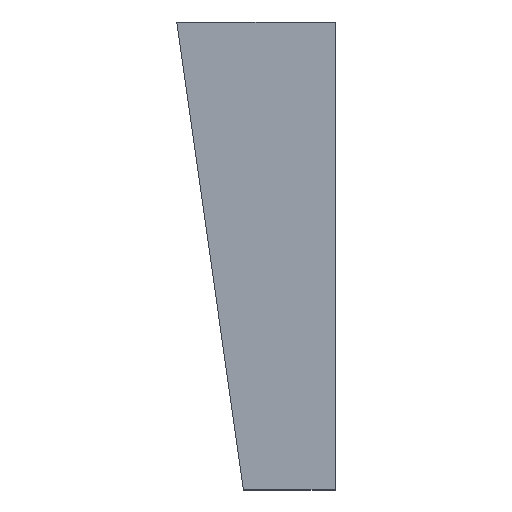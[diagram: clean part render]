
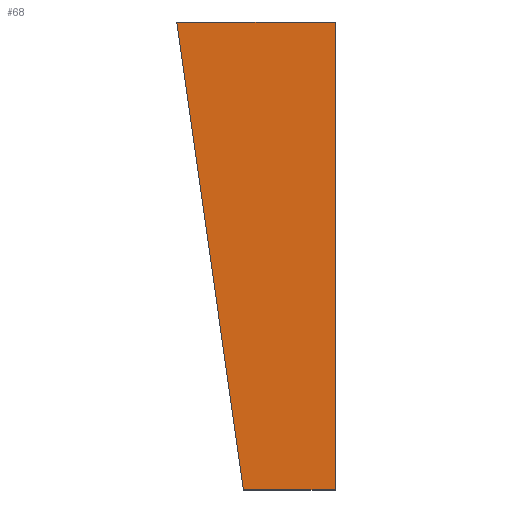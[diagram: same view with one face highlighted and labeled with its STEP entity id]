
A CAD part, top view. The second image highlights one B-rep face of the part: STEP entity #68.
In plain terms, the highlighted planar face has unit normal (0, 0, 1).
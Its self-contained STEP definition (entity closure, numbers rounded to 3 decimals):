
#42=FACE_OUTER_BOUND($,#48,.F.);
#48=EDGE_LOOP($,(#74,#75,#76,#77));
#54=AXIS2_PLACEMENT_3D($,#188,#166,$);
#62=PLANE($,#54);
#68=ADVANCED_FACE($,(#42),#62,.T.);
#74=ORIENTED_EDGE($,*,*,#98,.T.);
#75=ORIENTED_EDGE($,*,*,#99,.T.);
#76=ORIENTED_EDGE($,*,*,#100,.T.);
#77=ORIENTED_EDGE($,*,*,#101,.T.);
#98=EDGE_CURVE($,#137,#138,#124,.T.);
#99=EDGE_CURVE($,#138,#139,#125,.T.);
#100=EDGE_CURVE($,#139,#140,#126,.T.);
#101=EDGE_CURVE($,#140,#137,#127,.T.);
#111=VECTOR($,#169,336.204);
#112=VECTOR($,#170,1730.686);
#113=VECTOR($,#171,580.043);
#114=VECTOR($,#172,1713.422);
#124=LINE($,#187,#111);
#125=LINE($,#188,#112);
#126=LINE($,#189,#113);
#127=LINE($,#190,#114);
#137=VERTEX_POINT($,#187);
#138=VERTEX_POINT($,#188);
#139=VERTEX_POINT($,#189);
#140=VERTEX_POINT($,#190);
#166=DIRECTION($,(0.,0.,1.));
#169=DIRECTION($,(-1.,0.,0.));
#170=DIRECTION($,(-0.141,0.99,0.));
#171=DIRECTION($,(1.,0.,0.));
#172=DIRECTION($,(0.,-1.,0.));
#187=CARTESIAN_POINT('',(316.035,-25.328,0.));
#188=CARTESIAN_POINT('',(-20.169,-25.328,0.));
#189=CARTESIAN_POINT('',(-264.008,1688.094,0.));
#190=CARTESIAN_POINT('',(316.035,1688.094,0.));
